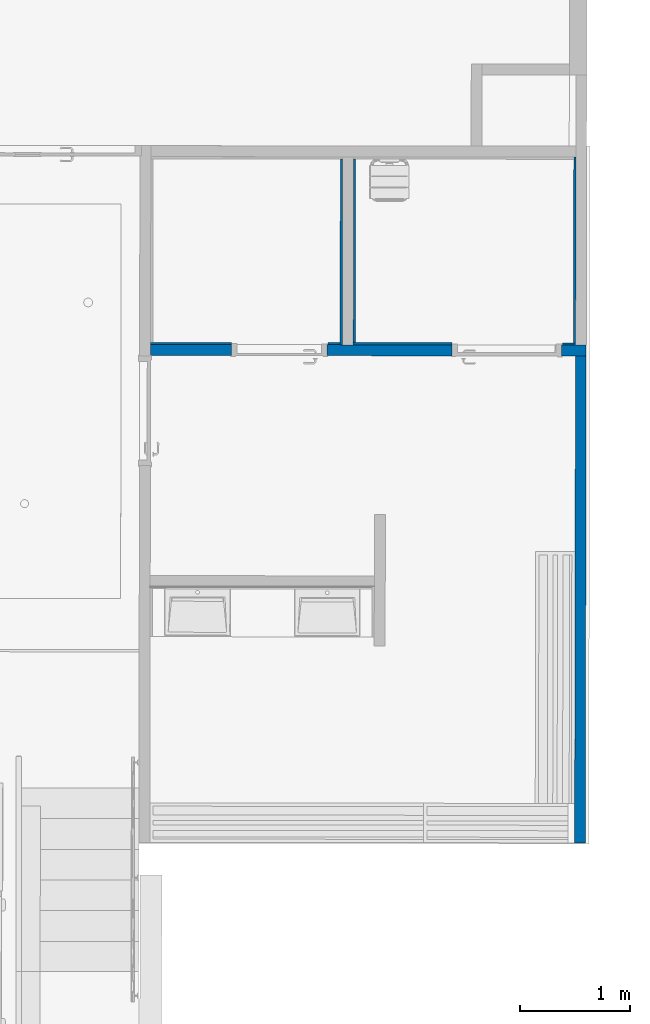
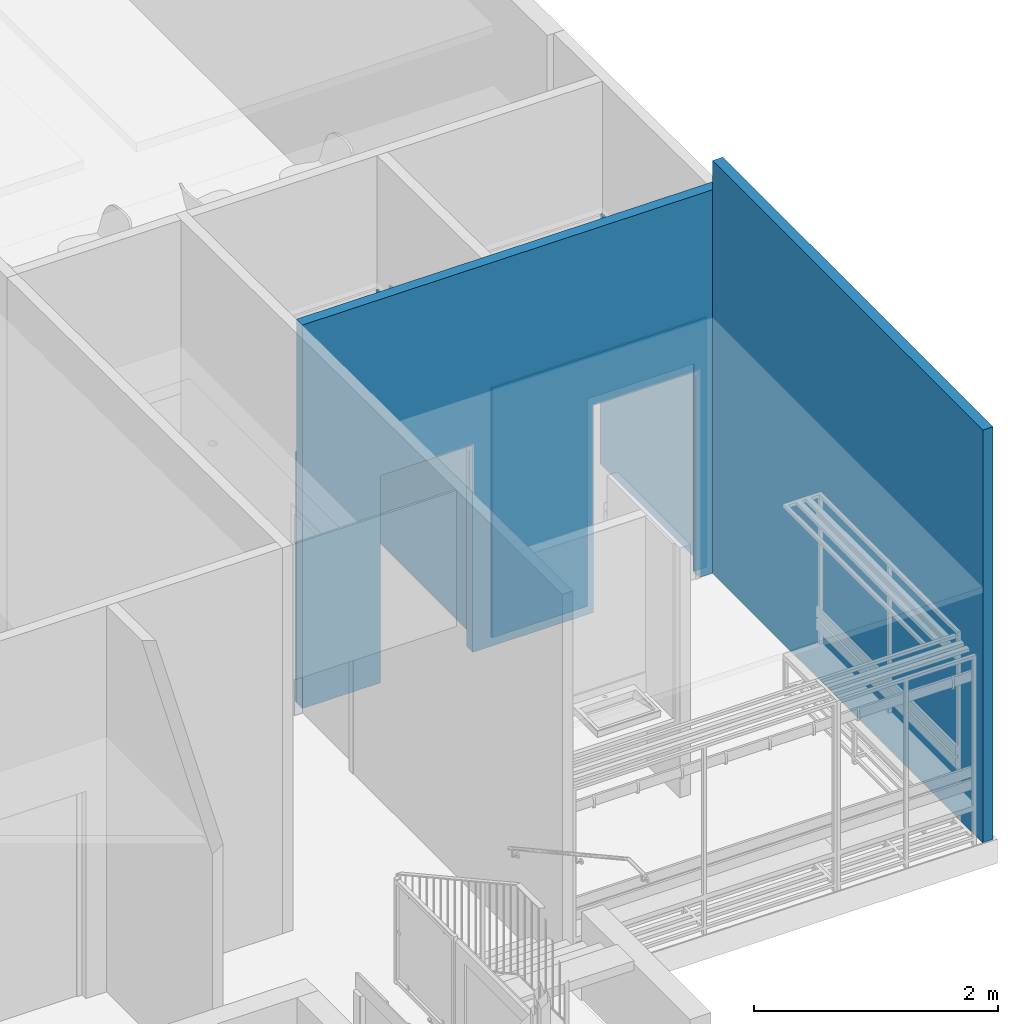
# One storey, part 15 of 43: 7 walls, 4 openings.
"""IFC2X3 building model written with IfcOpenShell, lengths in metres."""

from ifc_helpers import new_model, entity, si_unit, converted_unit, derived_unit, direction, frame, frame_2d, origin, place, context, subcontext, project, spatial, polyline, rectangle, outline, extrude, clip, bounded_halfspace, material, layer, layer_set, layer_usage, type_object, element, save


model = new_model("IFC2X3")

# Units and contexts
model_context = context("Model", 3, precision=1e-05, world=origin(), true_north=direction((6.123233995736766e-17, 1.0)))
body_context = subcontext(model_context, "Body", "Model", "MODEL_VIEW")
ifc_project = project(units=[si_unit("LENGTHUNIT", "METRE"), si_unit("AREAUNIT", "SQUARE_METRE"), converted_unit("PLANEANGLEUNIT", "DEGREE", entity("IfcPlaneAngleMeasure", 0.017453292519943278), si_unit("PLANEANGLEUNIT", "RADIAN"), dimensions=[0, 0, 0, 0, 0, 0, 0]), derived_unit("THERMALTRANSMITTANCEUNIT", [(si_unit("MASSUNIT", "GRAM", prefix="KILO"), 1), (si_unit("THERMODYNAMICTEMPERATUREUNIT", "KELVIN"), -1), (si_unit("TIMEUNIT", "SECOND"), -3)])], contexts=[model_context])

# Site, building, storey
site_placement = place(None, frame((1253.6752467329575, 2072.143113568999, 91.49999999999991), z_axis=(0.0, 0.0, 1.0), x_axis=(0.7237211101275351, 0.6900925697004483, 0.0)))
site = spatial("IfcSite", under=ifc_project, at=site_placement, Name="Surface", CompositionType="ELEMENT")
building_placement = place(site_placement, origin())
building = spatial("IfcBuilding", under=site, at=building_placement, CompositionType="ELEMENT")
storey_placement = place(building_placement, frame((0.0, 0.0, -4.629999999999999)))
storey = spatial("IfcBuildingStorey", under=building, at=storey_placement, Name="rez de rue -1.10m", CompositionType="ELEMENT", Elevation=-4.629999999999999)

# Wall, openings
ifc_material_1 = material(Name="OMD_Cloison 100mm")
ifc_layer_1 = layer(ifc_material_1, 0.1)
ifc_layer_set_1 = layer_set([ifc_layer_1], Name="Mur de base:Cloison 100mm")
ifc_layer_usage_1 = layer_usage(ifc_layer_set_1, "AXIS2", "POSITIVE", -0.05)
wall_type_1 = type_object("IfcWallType", Name="Mur de base:Cloison 100mm", PredefinedType="STANDARD", material=ifc_layer_set_1)
wall_1_placement = place(storey_placement, frame((175.6110783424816, -7.6016317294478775, 0.0), z_axis=(0.0, 0.0, 1.0), x_axis=(0.7227070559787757, -0.6911544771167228, 0.0)))
wall_1 = element("IfcWallStandardCase", 1, at=wall_1_placement, inside=storey, type_object=wall_type_1, material=ifc_layer_usage_1, Name="Mur de base:Cloison 100mm", ObjectType="Mur de base:Cloison 100mm", context=body_context, shape_type="Clipping", body=[
    clip(extrude(outline(polyline([(0.0, -0.04999999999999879), (3.9769807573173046, -0.04999999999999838), (3.977005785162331, 0.05000000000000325), (3.881052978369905, 0.049999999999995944), (1.8500000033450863, 0.04999999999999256), (1.750000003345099, 0.04999999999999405), (0.0, 0.049999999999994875), (0.0, -0.04999999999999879)])), origin(), (0.0, 0.0, 1.0), 3.8377577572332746), bounded_halfspace(frame((0.0, -0.050000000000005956, 3.8377577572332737), z_axis=(0.0, 0.00890106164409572, 0.9999603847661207), x_axis=(-1.0, 0.0, 0.0)), False, frame((0.0, -0.050000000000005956, 3.8377577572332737)), polyline([(0.0, 0.0), (3.976980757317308, 0.0), (3.9770057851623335, 0.09999999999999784), (3.8810529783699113, 0.10000000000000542), (1.8500000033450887, 0.09999999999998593), (1.7500000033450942, 0.09999999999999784), (0.0, 0.09999999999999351), (0.0, 0.0)]))),
])
opening_1_placement = place(wall_1_placement, frame((3.7519644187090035, 0.050000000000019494, 0.0)))
element("IfcOpeningElement", 2, at=opening_1_placement, cuts=wall_1, Name="Grz_porte 1V recouvrement 30°:93x204:1", ObjectType="Opening", context=body_context, shape_type="SweptSolid", body=[
    extrude(rectangle(XDim=2.0749999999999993, YDim=0.999999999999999, at=frame_2d((1.0374999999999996, 0.5000000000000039), x_axis=(1.0, 0.0))), frame((0.0, 0.0, 0.0), z_axis=(0.0, -1.0, 0.0), x_axis=(0.0, 0.0, 1.0)), (0.0, 0.0, 1.0), 0.1),
])
opening_2_placement = place(wall_1_placement, frame((1.6100000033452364, 0.05000000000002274, 0.0)))
element("IfcOpeningElement", 3, at=opening_2_placement, cuts=wall_1, Name="Grz_porte 1V recouvrement 30°:80x204:1", ObjectType="Opening", context=body_context, shape_type="SweptSolid", body=[
    extrude(rectangle(XDim=2.0749999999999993, YDim=0.8699999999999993, at=frame_2d((1.0374999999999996, 0.43499999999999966), x_axis=(1.0, 0.0))), frame((0.0, 0.0, 0.0), z_axis=(0.0, -1.0, 0.0), x_axis=(0.0, 0.0, 1.0)), (0.0, 0.0, 1.0), 0.1),
])

# Walls
ifc_material_2 = material(Name="Maçonnerie - Isolant")
ifc_layer_2 = layer(ifc_material_2, 0.085)
ifc_material_3 = material(Name="TV_Black")
ifc_layer_3 = layer(ifc_material_3, 0.013)
ifc_layer_set_2 = layer_set([ifc_layer_2, ifc_layer_3], Name="Mur de base:ITI85+ba13")
ifc_layer_usage_2 = layer_usage(ifc_layer_set_2, "AXIS2", "POSITIVE", -0.048999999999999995)
wall_type_2 = type_object("IfcWallType", Name="Mur de base:ITI85+ba13", PredefinedType="STANDARD", material=ifc_layer_set_2)
wall_2_placement = place(storey_placement, frame((175.34289838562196, -13.563662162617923, 0.0), z_axis=(0.0, 0.0, 1.0), x_axis=(0.6913353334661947, 0.7225340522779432, 0.0)))
element("IfcWallStandardCase", 4, at=wall_2_placement, inside=storey, type_object=wall_type_2, material=ifc_layer_usage_2, Name="Mur de base:ITI85+ba13", ObjectType="Mur de base:ITI85+ba13", context=body_context, shape_type="SweptSolid", body=[
    extrude(outline(polyline([(4.444167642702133, -0.049000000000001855), (4.444143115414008, 0.04900000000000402), (0.0, 0.04899999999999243), (4.766683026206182e-05, -0.04900000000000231), (4.444167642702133, -0.049000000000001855)])), origin(), (0.0, 0.0, 1.0), 4.129999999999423),
])
ifc_material_4 = material(Name="OMD faience douche 60*120")
ifc_layer_4 = layer(ifc_material_4, 0.02)
ifc_layer_set_3 = layer_set([ifc_layer_4], Name="Mur de base:faïence douches")
ifc_layer_usage_3 = layer_usage(ifc_layer_set_3, "AXIS2", "POSITIVE", -0.010000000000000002)
wall_type_3 = type_object("IfcWallType", Name="Mur de base:faïence douches", PredefinedType="STANDARD", material=ifc_layer_set_3)
wall_3_placement = place(storey_placement, frame((178.0746557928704, -7.543113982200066, 0.0), z_axis=(0.0, 0.0, 1.0), x_axis=(-0.69115447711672, -0.7227070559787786, 0.0)))
element("IfcWallStandardCase", 5, at=wall_3_placement, inside=storey, type_object=wall_type_3, material=ifc_layer_usage_3, Name="Mur de base:faïence douches", ObjectType="Mur de base:faïence douches", context=body_context, shape_type="SweptSolid", body=[
    extrude(outline(polyline([(1.6950037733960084, -0.010000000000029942), (1.6950037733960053, 0.009999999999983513), (0.0, 0.009999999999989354), (4.722354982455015e-06, -0.010000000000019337), (1.6750037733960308, -0.010000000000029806), (1.6950037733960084, -0.010000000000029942)])), origin(), (0.0, 0.0, 1.0), 2.499999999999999),
])

# Wall, opening
ifc_layer_usage_4 = layer_usage(ifc_layer_set_3, "AXIS2", "POSITIVE", -0.010000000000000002)
wall_4_placement = place(storey_placement, frame((176.90283082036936, -8.75396655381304, 0.0), z_axis=(0.0, 0.0, 1.0), x_axis=(-0.722707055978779, 0.6911544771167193, 0.0)))
wall_4 = element("IfcWallStandardCase", 6, at=wall_4_placement, inside=storey, type_object=wall_type_3, material=ifc_layer_usage_4, Name="Mur de base:faïence douches", ObjectType="Mur de base:faïence douches", context=body_context, shape_type="SweptSolid", body=[
    extrude(rectangle(XDim=1.7300000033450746, YDim=0.019999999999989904, at=frame_2d((0.8650000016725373, 9.280770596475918e-17), x_axis=(-1.0, 0.0))), origin(), (0.0, 0.0, 1.0), 2.499999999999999),
])
opening_3_placement = place(wall_4_placement, origin())
element("IfcOpeningElement", 7, at=opening_3_placement, cuts=wall_4, Name="Mur de base:faïence douches", ObjectType="Opening", context=body_context, shape_type="SweptSolid", body=[
    extrude(rectangle(XDim=2.0749999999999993, YDim=0.8800000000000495, at=frame_2d((-7.216449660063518e-16, 0.0), x_axis=(0.0, 1.0))), frame((0.5499999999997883, 0.010000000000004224, 1.0374999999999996), z_axis=(0.0, -1.0, 0.0), x_axis=(1.0, 0.0, 0.0)), (0.0, 0.0, 1.0), 0.020000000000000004),
])

ifc_layer_usage_5 = layer_usage(ifc_layer_set_3, "AXIS2", "POSITIVE", -0.010000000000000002)
wall_5_placement = place(storey_placement, frame((178.45738626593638, -10.240651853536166, 0.0), z_axis=(0.0, 0.0, 1.0), x_axis=(-0.7227070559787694, 0.6911544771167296, 0.0)))
wall_5 = element("IfcWallStandardCase", 8, at=wall_5_placement, inside=storey, type_object=wall_type_3, material=ifc_layer_usage_5, Name="Mur de base:faïence douches", ObjectType="Mur de base:faïence douches", context=body_context, shape_type="SweptSolid", body=[
    extrude(rectangle(XDim=2.0310173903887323, YDim=0.01999999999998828, at=frame_2d((1.0155086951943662, 2.1337098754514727e-16), x_axis=(-1.0, 0.0))), origin(), (0.0, 0.0, 1.0), 2.499999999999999),
])
opening_4_placement = place(wall_5_placement, origin())
element("IfcOpeningElement", 9, at=opening_4_placement, cuts=wall_5, Name="Mur de base:faïence douches", ObjectType="Opening", context=body_context, shape_type="SweptSolid", body=[
    extrude(rectangle(XDim=2.0749999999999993, YDim=1.0100000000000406, at=frame_2d((1.9262369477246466e-14, 0.0), x_axis=(0.0, 1.0))), frame((0.6240529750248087, 0.009999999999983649, 1.0374999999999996), z_axis=(0.0, -1.0, 0.0), x_axis=(1.0, 0.0, 0.0)), (0.0, 0.0, 1.0), 0.02),
])

# Walls
ifc_layer_usage_6 = layer_usage(ifc_layer_set_3, "AXIS2", "NEGATIVE", 0.010000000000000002)
wall_6_placement = place(storey_placement, frame((178.45707074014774, -10.226513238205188, 0.0), z_axis=(0.0, 0.0, 1.0), x_axis=(0.6911544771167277, 0.7227070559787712, 0.0)))
element("IfcWallStandardCase", 10, at=wall_6_placement, inside=storey, type_object=wall_type_3, material=ifc_layer_usage_6, Name="Mur de base:faïence douches", ObjectType="Mur de base:faïence douches", context=body_context, shape_type="SweptSolid", body=[
    extrude(outline(polyline([(1.695871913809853, -0.01000000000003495), (1.6958671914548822, 0.009999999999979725), (1.675867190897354, 0.009999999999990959), (0.0, 0.00999999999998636), (0.0, -0.010000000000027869), (1.695871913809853, -0.01000000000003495)])), origin(), (0.0, 0.0, 1.0), 2.499999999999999),
])
ifc_layer_usage_7 = layer_usage(ifc_layer_set_3, "AXIS2", "NEGATIVE", 0.010000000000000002)
wall_7_placement = place(storey_placement, frame((178.16165247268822, -7.625768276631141, 0.0), z_axis=(0.0, 0.0, 1.0), x_axis=(-0.6911544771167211, -0.7227070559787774, 0.0)))
element("IfcWallStandardCase", 11, at=wall_7_placement, inside=storey, type_object=wall_type_3, material=ifc_layer_usage_7, Name="Mur de base:faïence douches", ObjectType="Mur de base:faïence douches", context=body_context, shape_type="SweptSolid", body=[
    extrude(outline(polyline([(1.675397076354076, -0.010000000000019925), (1.675397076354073, 0.009999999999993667), (0.0, 0.0099999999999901), (4.722354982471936e-06, -0.010000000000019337), (1.675397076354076, -0.010000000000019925)])), origin(), (0.0, 0.0, 1.0), 2.499999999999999),
])

save(model, "model.ifc")
